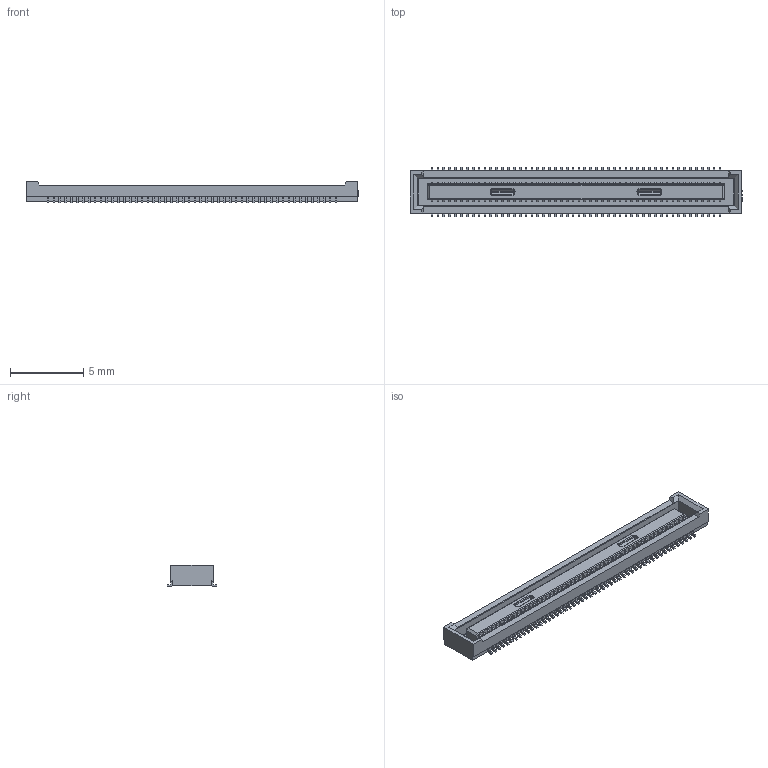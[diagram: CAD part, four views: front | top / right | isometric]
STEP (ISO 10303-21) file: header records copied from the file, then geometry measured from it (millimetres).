
FILE_DESCRIPTION (( 'STEP AP214' ), '1' );
FILE_NAME ('DF40C-100DS.STEP', '2025-02-19T02:42:32', ( '' ), ( '' ), 'SwSTEP 2.0', 'SolidWorks 2021', '' );
FILE_SCHEMA (( 'AUTOMOTIVE_DESIGN' ));
Length unit declared in the file: millimetre
Products named in the file (1): DF40C-100DS
Bounding box: 22.6 x 3.38 x 1.45 mm (x, y, z)
Volume: 56.5 mm3; surface area: 298.7 mm2
Topology: 1 solids, 1 shells, 2467 faces, 6689 edges, 4446 vertices
Faces by surface type: plane 1895, cylinder 462, bspline 98, cone 12
Entity records: 104614 total; most frequent: CARTESIAN_POINT 14957, ORIENTED_EDGE 13378, DIRECTION 12141, EDGE_CURVE 6689, LINE 5545, VECTOR 5545, VERTEX_POINT 4446, AXIS2_PLACEMENT_3D 3298
